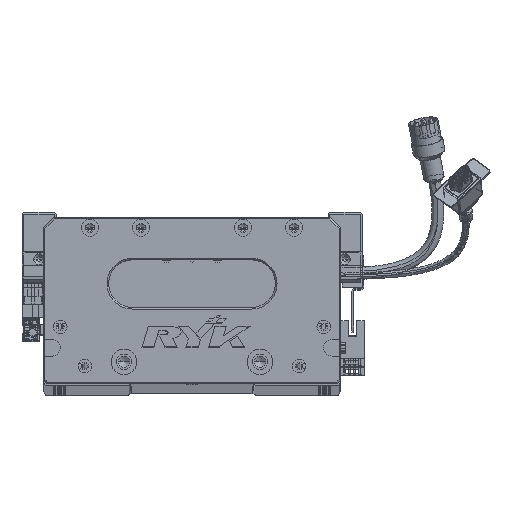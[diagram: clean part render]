
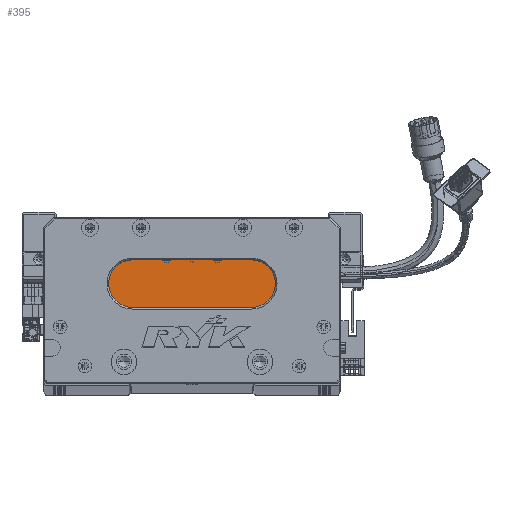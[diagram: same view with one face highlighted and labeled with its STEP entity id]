
A CAD part, top view. The second image highlights one B-rep face of the part: STEP entity #395.
In plain terms, the highlighted planar face has unit normal (0, 0, 1) as drawn and (0, 0, -1) by its records, which use the part's own axes.
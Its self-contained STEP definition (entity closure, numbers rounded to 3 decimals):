
#259 = CARTESIAN_POINT ( 'NONE',  ( 52.5, 59., 18. ) ) ;
#395 = ADVANCED_FACE ( 'NONE', ( #133110 ), #74805, .T. ) ;
#3763 = CARTESIAN_POINT ( 'NONE',  ( 122.5, 59., 18. ) ) ;
#5165 = DIRECTION ( 'NONE',  ( -1., 0., 0. ) ) ;
#6380 = VERTEX_POINT ( 'NONE', #126741 ) ;
#11080 = DIRECTION ( 'NONE',  ( -1., 0., 0. ) ) ;
#12146 = DIRECTION ( 'NONE',  ( 1., 0., 0. ) ) ;
#21647 = DIRECTION ( 'NONE',  ( -1., 0., 0. ) ) ;
#29614 = EDGE_CURVE ( 'NONE', #6380, #105834, #48407, .T. ) ;
#36370 = ORIENTED_EDGE ( 'NONE', *, *, #103274, .T. ) ;
#38916 = DIRECTION ( 'NONE',  ( -1., 0., 0. ) ) ;
#39685 = DIRECTION ( 'NONE',  ( 0., 0., -1. ) ) ;
#42627 = DIRECTION ( 'NONE',  ( 0., 0., -1. ) ) ;
#42739 = CARTESIAN_POINT ( 'NONE',  ( 122.5, 73., 18. ) ) ;
#43410 = VECTOR ( 'NONE', #38916, 1000. ) ;
#43448 = AXIS2_PLACEMENT_3D ( 'NONE', #3763, #111873, #5165 ) ;
#46690 = CARTESIAN_POINT ( 'NONE',  ( 38.5, 59., 18. ) ) ;
#48407 = CIRCLE ( 'NONE', #43448, 14. ) ;
#51374 = EDGE_CURVE ( 'NONE', #75769, #110622, #129396, .T. ) ;
#52716 = DIRECTION ( 'NONE',  ( 0., 0., -1. ) ) ;
#57393 = ORIENTED_EDGE ( 'NONE', *, *, #29614, .T. ) ;
#62305 = AXIS2_PLACEMENT_3D ( 'NONE', #86057, #52716, #21647 ) ;
#66163 = ORIENTED_EDGE ( 'NONE', *, *, #107363, .T. ) ;
#68084 = ORIENTED_EDGE ( 'NONE', *, *, #83683, .T. ) ;
#74805 = PLANE ( 'NONE',  #62305 ) ;
#75769 = VERTEX_POINT ( 'NONE', #93841 ) ;
#76515 = AXIS2_PLACEMENT_3D ( 'NONE', #83359, #39685, #81968 ) ;
#81968 = DIRECTION ( 'NONE',  ( -1., 0., 0. ) ) ;
#82659 = LINE ( 'NONE', #42739, #89389 ) ;
#83359 = CARTESIAN_POINT ( 'NONE',  ( 52.5, 59., 18. ) ) ;
#83683 = EDGE_CURVE ( 'NONE', #105834, #75769, #124245, .T. ) ;
#85454 = ORIENTED_EDGE ( 'NONE', *, *, #51374, .T. ) ;
#86057 = CARTESIAN_POINT ( 'NONE',  ( 122.5, 59., 18. ) ) ;
#89389 = VECTOR ( 'NONE', #12146, 1000. ) ;
#89822 = VERTEX_POINT ( 'NONE', #129651 ) ;
#93841 = CARTESIAN_POINT ( 'NONE',  ( 52.5, 45., 18. ) ) ;
#96637 = CIRCLE ( 'NONE', #98248, 14. ) ;
#98248 = AXIS2_PLACEMENT_3D ( 'NONE', #259, #42627, #11080 ) ;
#103274 = EDGE_CURVE ( 'NONE', #110622, #89822, #96637, .T. ) ;
#105834 = VERTEX_POINT ( 'NONE', #111676 ) ;
#107363 = EDGE_CURVE ( 'NONE', #89822, #6380, #82659, .T. ) ;
#110622 = VERTEX_POINT ( 'NONE', #46690 ) ;
#111676 = CARTESIAN_POINT ( 'NONE',  ( 122.5, 45., 18. ) ) ;
#111873 = DIRECTION ( 'NONE',  ( 0., 0., -1. ) ) ;
#115801 = CARTESIAN_POINT ( 'NONE',  ( 122.5, 45., 18. ) ) ;
#124245 = LINE ( 'NONE', #115801, #43410 ) ;
#126741 = CARTESIAN_POINT ( 'NONE',  ( 122.5, 73., 18. ) ) ;
#129343 = EDGE_LOOP ( 'NONE', ( #57393, #68084, #85454, #36370, #66163 ) ) ;
#129396 = CIRCLE ( 'NONE', #76515, 14. ) ;
#129651 = CARTESIAN_POINT ( 'NONE',  ( 52.5, 73., 18. ) ) ;
#133110 = FACE_OUTER_BOUND ( 'NONE', #129343, .T. ) ;
